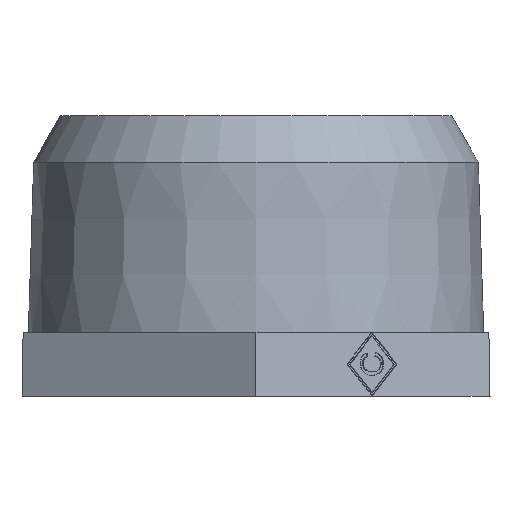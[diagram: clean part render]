
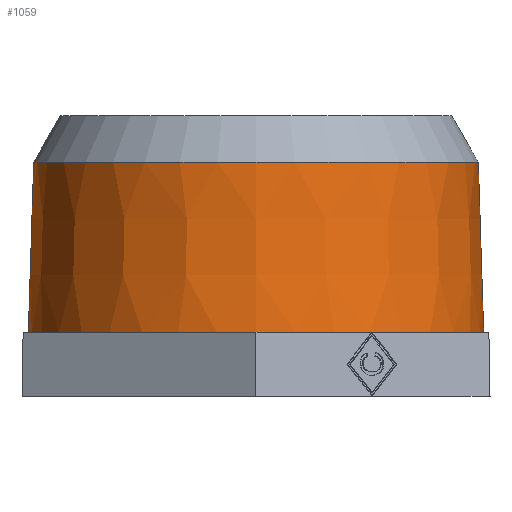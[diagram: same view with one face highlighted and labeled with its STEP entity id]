
A CAD part, front view. The second image highlights one B-rep face of the part: STEP entity #1059.
In plain terms, the highlighted conical face has half-angle 1.8 degrees and reference radius 25.15 mm.
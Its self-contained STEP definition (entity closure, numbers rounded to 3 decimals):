
#1028=CARTESIAN_POINT('',(24.56,0.,25.871));
#1029=VERTEX_POINT('',#1028);
#1030=CARTESIAN_POINT('',(0.,0.,25.871));
#1031=DIRECTION('',(0.0,0.0,1.0));
#1032=DIRECTION('',(-1.0,0.0,0.0));
#1033=AXIS2_PLACEMENT_3D('',#1030,#1031,#1032);
#1034=CIRCLE('',#1033,24.56);
#1035=EDGE_CURVE('',#1029,#1029,#1034,.T.);
#1040=CARTESIAN_POINT('',(0.,0.,7.1));
#1041=DIRECTION('',(0.,0.,-1.));
#1042=DIRECTION('',(-1.0,0.0,0.0));
#1043=AXIS2_PLACEMENT_3D('',#1040,#1041,#1042);
#1044=CONICAL_SURFACE('',#1043,25.15,1.8);
#1045=CARTESIAN_POINT('',(25.15,0.,7.1));
#1046=VERTEX_POINT('',#1045);
#1047=CARTESIAN_POINT('',(0.,0.,7.1));
#1048=DIRECTION('',(0.0,0.0,-1.0));
#1049=DIRECTION('',(-1.0,0.0,0.0));
#1050=AXIS2_PLACEMENT_3D('',#1047,#1048,#1049);
#1051=CIRCLE('',#1050,25.15);
#1052=EDGE_CURVE('',#1046,#1046,#1051,.T.);
#1053=ORIENTED_EDGE('',*,*,#1052,.F.);
#1054=EDGE_LOOP('',(#1053));
#1055=FACE_OUTER_BOUND('',#1054,.T.);
#1056=ORIENTED_EDGE('',*,*,#1035,.F.);
#1057=EDGE_LOOP('',(#1056));
#1058=FACE_BOUND('',#1057,.T.);
#1059=ADVANCED_FACE('',(#1055,#1058),#1044,.T.);
